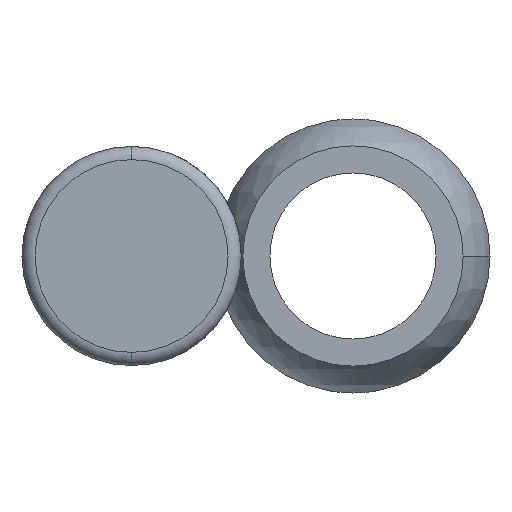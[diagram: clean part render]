
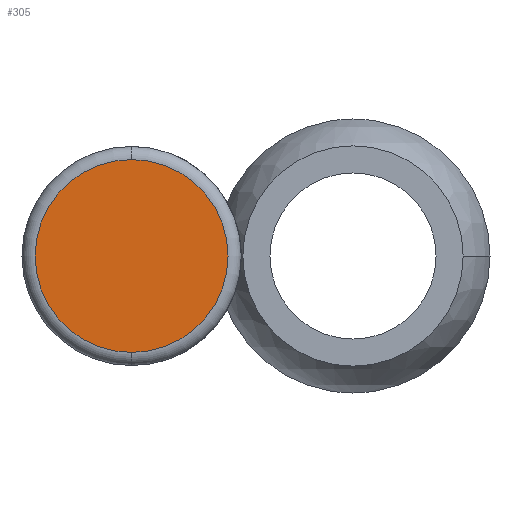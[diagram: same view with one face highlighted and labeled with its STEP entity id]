
A CAD part, front view. The second image highlights one B-rep face of the part: STEP entity #305.
In plain terms, the highlighted planar face has unit normal (0, -1, 0).
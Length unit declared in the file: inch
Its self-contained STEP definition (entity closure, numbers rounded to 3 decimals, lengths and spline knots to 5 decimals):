
#2 = CARTESIAN_POINT ( 'NONE',  ( 0., -0.95, 0.22 ) ) ;
#46 = CIRCLE ( 'NONE', #507, 0.22 ) ;
#48 = AXIS2_PLACEMENT_3D ( 'NONE', #329, #1175, #720 ) ;
#54 = CARTESIAN_POINT ( 'NONE',  ( 0., -0.95, 0. ) ) ;
#77 = ORIENTED_EDGE ( 'NONE', *, *, #308, .T. ) ;
#143 = EDGE_LOOP ( 'NONE', ( #848, #77 ) ) ;
#150 = DIRECTION ( 'NONE',  ( 0., -1., 0. ) ) ;
#158 = CARTESIAN_POINT ( 'NONE',  ( 0., -0.95, -0.22 ) ) ;
#257 = EDGE_CURVE ( 'NONE', #786, #1101, #890, .T. ) ;
#305 = ADVANCED_FACE ( 'NONE', ( #626 ), #1003, .F. ) ;
#308 = EDGE_CURVE ( 'NONE', #1101, #786, #46, .T. ) ;
#329 = CARTESIAN_POINT ( 'NONE',  ( 0., -0.95, 0. ) ) ;
#507 = AXIS2_PLACEMENT_3D ( 'NONE', #992, #150, #696 ) ;
#626 = FACE_OUTER_BOUND ( 'NONE', #143, .T. ) ;
#696 = DIRECTION ( 'NONE',  ( 0., 0., 1. ) ) ;
#720 = DIRECTION ( 'NONE',  ( 0., 0., 1. ) ) ;
#786 = VERTEX_POINT ( 'NONE', #2 ) ;
#792 = DIRECTION ( 'NONE',  ( 0., 0., 1. ) ) ;
#836 = AXIS2_PLACEMENT_3D ( 'NONE', #54, #1080, #792 ) ;
#848 = ORIENTED_EDGE ( 'NONE', *, *, #257, .T. ) ;
#890 = CIRCLE ( 'NONE', #48, 0.22 ) ;
#992 = CARTESIAN_POINT ( 'NONE',  ( 0., -0.95, 0. ) ) ;
#1003 = PLANE ( 'NONE',  #836 ) ;
#1080 = DIRECTION ( 'NONE',  ( 0., 1., 0. ) ) ;
#1101 = VERTEX_POINT ( 'NONE', #158 ) ;
#1175 = DIRECTION ( 'NONE',  ( 0., -1., 0. ) ) ;
